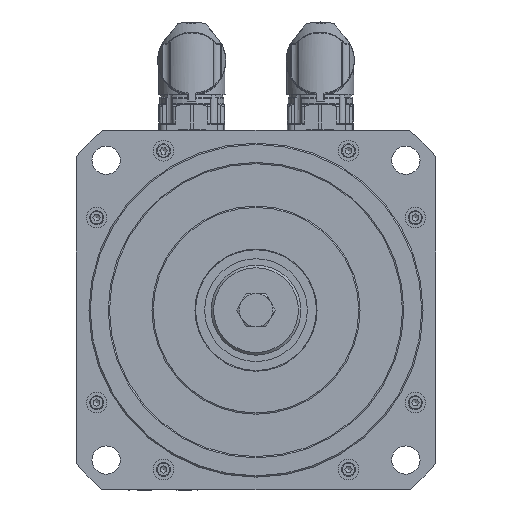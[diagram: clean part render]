
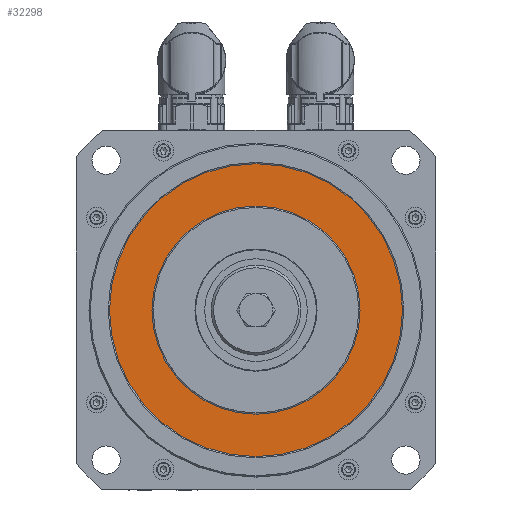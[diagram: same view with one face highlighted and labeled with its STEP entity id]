
A CAD part, front view. The second image highlights one B-rep face of the part: STEP entity #32298.
In plain terms, the highlighted planar face has unit normal (0, -1, 0).
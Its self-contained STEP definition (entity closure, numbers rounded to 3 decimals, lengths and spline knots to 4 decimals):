
#6453=PLANE('',#35299);
#6888=FACE_BOUND('',#10942,.T.);
#8710=FACE_OUTER_BOUND('',#10941,.T.);
#10941=EDGE_LOOP('',(#27499));
#10942=EDGE_LOOP('',(#27500));
#12566=CIRCLE('',#35297,2.2441);
#12568=CIRCLE('',#35300,1.5945);
#15281=VERTEX_POINT('',#67369);
#15283=VERTEX_POINT('',#67374);
#19486=EDGE_CURVE('',#15281,#15281,#12566,.T.);
#19488=EDGE_CURVE('',#15283,#15283,#12568,.T.);
#27499=ORIENTED_EDGE('',*,*,#19486,.F.);
#27500=ORIENTED_EDGE('',*,*,#19488,.F.);
#32298=ADVANCED_FACE('',(#8710,#6888),#6453,.F.);
#35297=AXIS2_PLACEMENT_3D('',#67370,#42757,#42758);
#35299=AXIS2_PLACEMENT_3D('',#67373,#42761,#42762);
#35300=AXIS2_PLACEMENT_3D('',#67375,#42763,#42764);
#42757=DIRECTION('center_axis',(0.,1.,0.));
#42758=DIRECTION('ref_axis',(0.,0.,
1.));
#42761=DIRECTION('center_axis',(0.,1.,0.));
#42762=DIRECTION('ref_axis',(1.,0.,0.));
#42763=DIRECTION('center_axis',(0.,-1.,0.));
#42764=DIRECTION('ref_axis',(0.,0.,
1.));
#67369=CARTESIAN_POINT('',(0.,-1.1713,-2.2441));
#67370=CARTESIAN_POINT('Origin',(0.,-1.1713,
0.));
#67373=CARTESIAN_POINT('Origin',(0.,-1.1713,
-1.9193));
#67374=CARTESIAN_POINT('',(0.,-1.1713,-1.5945));
#67375=CARTESIAN_POINT('Origin',(0.,-1.1713,
0.));
